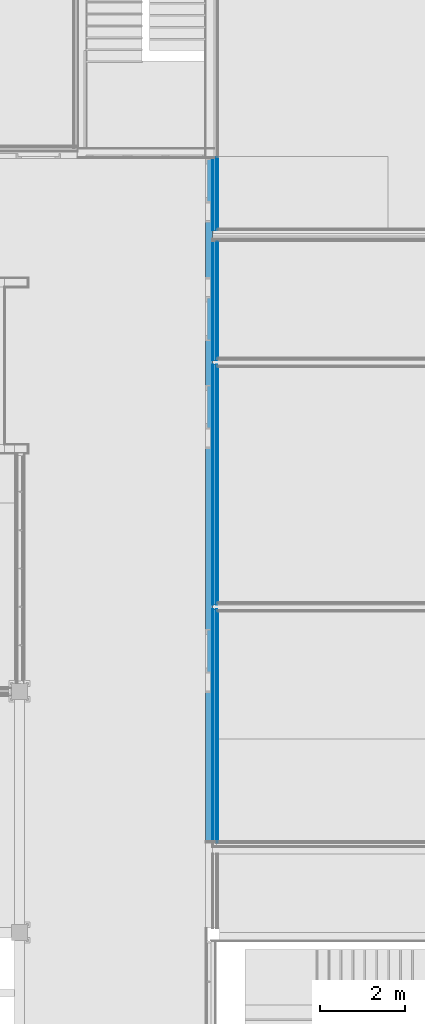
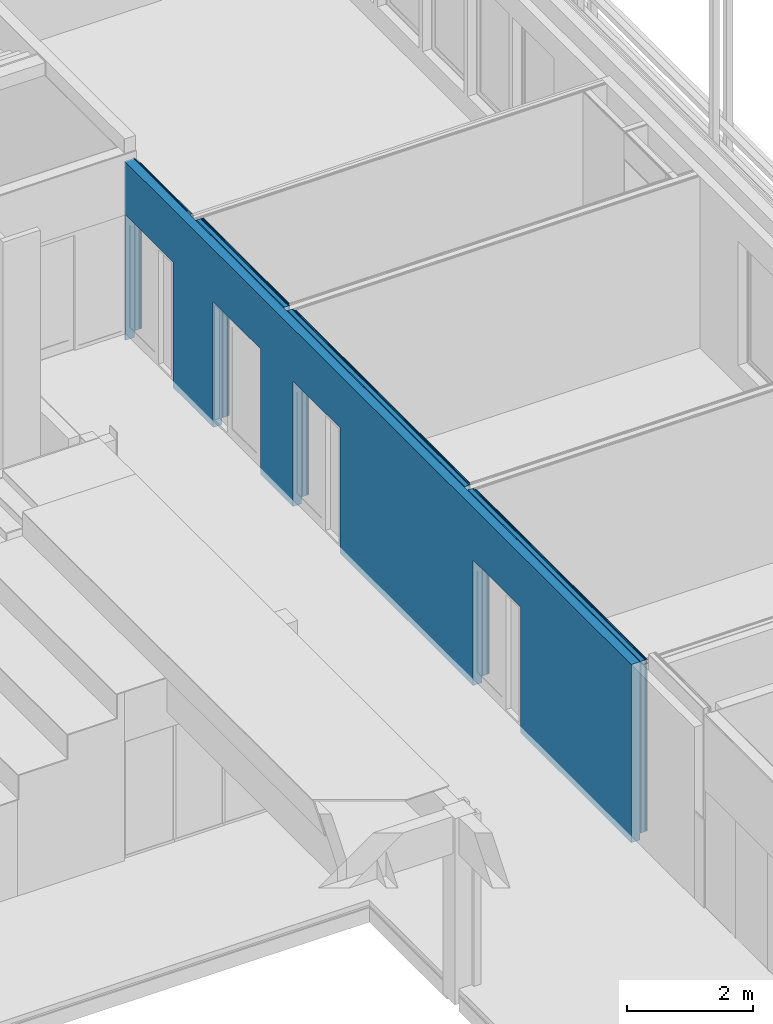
# One storey, part 59 of 139: 7 building element parts, 4 openings, 1 element without a shape of its own.
"""IFC2X3 building model written with IfcOpenShell, lengths in millimetres."""

from ifc_helpers import new_model, entity, si_unit, converted_unit, derived_unit, money_unit, direction, frame, origin_with_axes, place, context, subcontext, project, spatial, faceted_brep, material, type_object, element, aggregate, save


model = new_model("IFC2X3")

# Units and contexts
model_context = context("Model", 3, precision=0.01, world=origin_with_axes(), true_north=direction((0.0, 1.0)))
body_context = subcontext(model_context, "Body", "Model", "MODEL_VIEW")
ifc_project = project(units=[si_unit("LENGTHUNIT", "METRE", prefix="MILLI"), si_unit("AREAUNIT", "SQUARE_METRE"), si_unit("VOLUMEUNIT", "CUBIC_METRE"), converted_unit("PLANEANGLEUNIT", "DEGREE", entity("IfcPlaneAngleMeasure", 0.0174532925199), si_unit("PLANEANGLEUNIT", "RADIAN"), dimensions=[0, 0, 0, 0, 0, 0, 0]), money_unit("EUR"), converted_unit("TIMEUNIT", "Year", entity("IfcTimeMeasure", 31556926.0), si_unit("TIMEUNIT", "SECOND"), dimensions=[0, 0, 1, 0, 0, 0, 0]), si_unit("MASSUNIT", "GRAM", prefix="KILO"), si_unit("THERMODYNAMICTEMPERATUREUNIT", "DEGREE_CELSIUS"), si_unit("LUMINOUSINTENSITYUNIT", "LUMEN"), si_unit("ENERGYUNIT", "JOULE", prefix="MEGA"), derived_unit("THERMALCONDUCTANCEUNIT", [(si_unit("POWERUNIT", "WATT"), 1), (si_unit("LENGTHUNIT", "METRE"), -1), (si_unit("THERMODYNAMICTEMPERATUREUNIT", "KELVIN"), -1)]), derived_unit("SPECIFICHEATCAPACITYUNIT", [(si_unit("ENERGYUNIT", "JOULE"), 1), (si_unit("MASSUNIT", "GRAM", prefix="KILO"), -1), (si_unit("THERMODYNAMICTEMPERATUREUNIT", "KELVIN"), -1)]), derived_unit("MASSDENSITYUNIT", [(si_unit("MASSUNIT", "GRAM", prefix="KILO"), 1), (si_unit("VOLUMEUNIT", "CUBIC_METRE"), -1)])], contexts=[model_context])

# Site, building, storey
site_placement = place(None, origin_with_axes())
site = spatial("IfcSite", under=ifc_project, at=site_placement, Name="Kolde pst 67a", CompositionType="ELEMENT")
building_placement = place(site_placement, origin_with_axes())
building = spatial("IfcBuilding", under=site, at=building_placement, Name="Riigigümnaasium", CompositionType="ELEMENT")
storey_placement = place(building_placement, frame((0.0, 0.0, 4600.0), z_axis=(0.0, 0.0, 1.0), x_axis=(1.0, 0.0, 0.0)))
storey = spatial("IfcBuildingStorey", under=building, at=storey_placement, Name="2. korrus", CompositionType="ELEMENT", Elevation=4600.0)

# Wall, openings, building element parts
wall_type = type_object("IfcWallType", Name="SS-CLT-16/1_vill75+krohv 52 dB 300", PredefinedType="NOTDEFINED")
wall_placement = place(storey_placement, frame((52589.9941222, 52610.0001843, -130.0), z_axis=(0.0, 0.0, 1.0), x_axis=(0.0, -1.0, 0.0)))
wall = element("IfcWall", 1, at=wall_placement, inside=storey, type_object=wall_type, Name="Sisesein")
opening_1_placement = place(wall_placement, frame((780.0, 0.0, 130.0), z_axis=(0.0, 0.0, 1.0), x_axis=(1.0, 0.0, 0.0)))
element("IfcOpeningElement", 2, at=opening_1_placement, cuts=wall, Name="Siseuks", context=body_context, shape_type="Brep", body=[
    faceted_brep([(-750.0, 300.0, 2300.0), (-750.0, 300.0, 0.0), (-750.0, -600.0, 0.0), (-750.0, -600.0, 2300.0), (750.0, 300.0, 2300.0), (750.0, 300.0, 0.0), (750.0, -600.0, 0.0), (750.0, -600.0, 2300.0)], [[[0, 1, 2, 3]], [[0, 4, 5, 1]], [[1, 5, 6, 2]], [[3, 2, 6, 7]], [[4, 0, 3, 7]], [[5, 4, 7, 6]]]),
])
opening_2_placement = place(wall_placement, frame((3560.00030189, 0.0, 130.0), z_axis=(0.0, 0.0, 1.0), x_axis=(1.0, 0.0, 0.0)))
element("IfcOpeningElement", 3, at=opening_2_placement, cuts=wall, Name="Siseuks", context=body_context, shape_type="Brep", body=[
    faceted_brep([(750.0, -600.0, 2300.0), (750.0, -600.0, 0.0), (750.0, 300.0, 0.0), (750.0, 300.0, 2300.0), (-750.0, -600.0, 2300.0), (-750.0, -600.0, 0.0), (-750.0, 300.0, 0.0), (-750.0, 300.0, 2300.0)], [[[0, 1, 2, 3]], [[0, 4, 5, 1]], [[1, 5, 6, 2]], [[3, 2, 6, 7]], [[4, 0, 3, 7]], [[5, 4, 7, 6]]]),
])
opening_3_placement = place(wall_placement, frame((6085.00030189, 0.0, 130.0), z_axis=(0.0, 0.0, 1.0), x_axis=(1.0, 0.0, 0.0)))
element("IfcOpeningElement", 4, at=opening_3_placement, cuts=wall, Name="Siseuks", context=body_context, shape_type="Brep", body=[
    faceted_brep([(-750.0, 300.0, 2300.0), (-750.0, 300.0, 0.0), (-750.0, -600.0, 0.0), (-750.0, -600.0, 2300.0), (750.0, 300.0, 2300.0), (750.0, 300.0, 0.0), (750.0, -600.0, 0.0), (750.0, -600.0, 2300.0)], [[[0, 1, 2, 3]], [[0, 4, 5, 1]], [[1, 5, 6, 2]], [[3, 2, 6, 7]], [[4, 0, 3, 7]], [[5, 4, 7, 6]]]),
])
opening_4_placement = place(wall_placement, frame((11804.7091568, 0.0, 130.0), z_axis=(0.0, 0.0, 1.0), x_axis=(1.0, 0.0, 0.0)))
element("IfcOpeningElement", 5, at=opening_4_placement, cuts=wall, Name="Siseuks", context=body_context, shape_type="Brep", body=[
    faceted_brep([(-750.0, 300.0, 2300.0), (-750.0, 300.0, 0.0), (-750.0, -600.0, 0.0), (-750.0, -600.0, 2300.0), (750.0, 300.0, 2300.0), (750.0, 300.0, 0.0), (750.0, -600.0, 0.0), (750.0, -600.0, 2300.0)], [[[0, 1, 2, 3]], [[0, 4, 5, 1]], [[1, 5, 6, 2]], [[3, 2, 6, 7]], [[4, 0, 3, 7]], [[5, 4, 7, 6]]]),
])
ifc_material_1 = material(Name="_VIIMISTLUSKIHT - viimistlus vastavalt SA osale")
building_element_part_1_placement = place(wall_placement, origin_with_axes())
building_element_part_1 = element("IfcBuildingElementPart", 6, at=building_element_part_1_placement, material=ifc_material_1, Name="_VIIMISTLUSKIHT - viimistlus vastavalt SA osale", context=body_context, shape_type="Brep", body=[
    faceted_brep([(1530.0, 300.0, 130.0), (1530.0, 300.0, 2430.0), (30.0, 300.0, 2430.0), (30.0, 300.0, 130.0), (0.0, 300.0, 130.0), (0.0, 300.0, 3305.0), (1684.99980569, 300.0, 3305.0), (1684.99980569, 300.0, 130.0), (1530.0, 290.0, 130.0), (1530.0, 290.0, 2430.0), (30.0, 290.0, 2430.0), (30.0, 290.0, 130.0), (0.0, 290.0, 130.0), (0.0, 290.0, 3305.0), (1684.99980569, 290.0, 3305.0), (1684.99980569, 290.0, 130.0)], [[[0, 1, 2, 3, 4, 5, 6, 7]], [[1, 0, 8, 9]], [[2, 1, 9, 10]], [[3, 2, 10, 11]], [[3, 11, 12, 4]], [[12, 13, 5, 4]], [[13, 14, 6, 5]], [[7, 6, 14, 15]], [[8, 0, 7, 15]], [[9, 8, 15, 14, 13, 12, 11, 10]]]),
    faceted_brep([(4310.00030189, 300.0, 130.0), (4310.00030189, 300.0, 2430.0), (2810.00030189, 300.0, 2430.0), (2810.00030189, 300.0, 130.0), (1974.99980569, 300.0, 130.0), (1974.99980569, 300.0, 3450.0), (4710.00030189, 300.0, 3450.0), (4710.00030189, 300.0, 130.0), (4310.00030189, 290.0, 130.0), (4310.00030189, 290.0, 2430.0), (2810.00030189, 290.0, 2430.0), (2810.00030189, 290.0, 130.0), (1974.99980569, 290.0, 130.0), (1974.99980569, 290.0, 3450.0), (4710.00030189, 290.0, 3450.0), (4710.00030189, 290.0, 130.0)], [[[0, 1, 2, 3, 4, 5, 6, 7]], [[1, 0, 8, 9]], [[2, 1, 9, 10]], [[3, 2, 10, 11]], [[3, 11, 12, 4]], [[5, 4, 12, 13]], [[5, 13, 14, 6]], [[14, 15, 7, 6]], [[8, 0, 7, 15]], [[9, 8, 15, 14, 13, 12, 11, 10]]]),
    faceted_brep([(6835.00030189, 300.0, 130.0), (6835.00030189, 300.0, 2430.0), (5335.00030189, 300.0, 2430.0), (5335.00030189, 300.0, 130.0), (4920.00030189, 300.0, 130.0), (4920.00030189, 300.0, 3450.0), (10434.7091568, 300.0, 3450.0), (10434.7091568, 300.0, 130.0), (6835.00030189, 290.0, 130.0), (6835.00030189, 290.0, 2430.0), (5335.00030189, 290.0, 2430.0), (5335.00030189, 290.0, 130.0), (4920.00030189, 290.0, 130.0), (4920.00030189, 290.0, 3450.0), (10434.7091568, 290.0, 3450.0), (10434.7091568, 290.0, 130.0)], [[[0, 1, 2, 3, 4, 5, 6, 7]], [[1, 0, 8, 9]], [[2, 1, 9, 10]], [[3, 2, 10, 11]], [[3, 11, 12, 4]], [[5, 4, 12, 13]], [[5, 13, 14, 6]], [[14, 15, 7, 6]], [[8, 0, 7, 15]], [[9, 8, 15, 14, 13, 12, 11, 10]]]),
    faceted_brep([(12554.7091568, 300.0, 130.0), (12554.7091568, 300.0, 2430.0), (11054.7091568, 300.0, 2430.0), (11054.7091568, 300.0, 130.0), (10644.7091568, 300.0, 130.0), (10644.7091568, 300.0, 3450.0), (16070.0004846, 300.0, 3450.0), (16070.0004846, 300.0, 130.0), (12554.7091568, 290.0, 130.0), (12554.7091568, 290.0, 2430.0), (11054.7091568, 290.0, 2430.0), (11054.7091568, 290.0, 130.0), (10644.7091568, 290.0, 130.0), (10644.7091568, 290.0, 3450.0), (16070.0004846, 290.0, 3450.0), (16070.0004846, 290.0, 130.0)], [[[0, 1, 2, 3, 4, 5, 6, 7]], [[1, 0, 8, 9]], [[2, 1, 9, 10]], [[3, 2, 10, 11]], [[3, 11, 12, 4]], [[5, 4, 12, 13]], [[5, 13, 14, 6]], [[14, 15, 7, 6]], [[8, 0, 7, 15]], [[9, 8, 15, 14, 13, 12, 11, 10]]]),
])
ifc_material_2 = material(Name="_PLAATMATERJAL - tuletõkkekipsplaat, Knauf Red GKF või samaväärne")
building_element_part_2_placement = place(wall_placement, origin_with_axes())
building_element_part_2 = element("IfcBuildingElementPart", 7, at=building_element_part_2_placement, material=ifc_material_2, Name="_PLAATMATERJAL - tuletõkkekipsplaat, Knauf Red GKF või samaväärne", context=body_context, shape_type="Brep", body=[
    faceted_brep([(1530.0, 290.0, 130.0), (1530.0, 290.0, 2430.0), (30.0, 290.0, 2430.0), (30.0, 290.0, 130.0), (30.0, 290.0, 127.0), (0.0, 290.0, 127.0), (0.0, 290.0, 3330.0), (1699.99980569, 290.0, 3330.0), (1699.99980569, 290.0, 127.0), (1530.0, 290.0, 127.0), (1530.0, 275.0, 130.0), (1530.0, 275.0, 2430.0), (30.0, 275.0, 2430.0), (30.0, 275.0, 130.0), (30.0, 275.0, 127.0), (0.0, 275.0, 127.0), (0.0, 275.0, 3330.0), (1699.99980569, 275.0, 3330.0), (1699.99980569, 275.0, 127.0), (1530.0, 275.0, 127.0)], [[[0, 1, 2, 3, 4, 5, 6, 7, 8, 9]], [[1, 0, 10, 11]], [[2, 1, 11, 12]], [[3, 2, 12, 13]], [[3, 13, 14, 4]], [[14, 15, 5, 4]], [[15, 16, 6, 5]], [[6, 16, 17, 7]], [[8, 7, 17, 18]], [[9, 8, 18, 19]], [[10, 0, 9, 19]], [[11, 10, 19, 18, 17, 16, 15, 14, 13, 12]]]),
    faceted_brep([(4310.00030189, 290.0, 130.0), (4310.00030189, 290.0, 2430.0), (2810.00030189, 290.0, 2430.0), (2810.00030189, 290.0, 130.0), (2810.00030189, 290.0, 127.0), (1974.99980569, 290.0, 127.0), (1974.99980569, 290.0, 3450.0), (4725.00030189, 290.0, 3450.0), (4725.00030189, 290.0, 127.0), (4310.00030189, 290.0, 127.0), (4310.00030189, 275.0, 130.0), (4310.00030189, 275.0, 2430.0), (2810.00030189, 275.0, 2430.0), (2810.00030189, 275.0, 130.0), (2810.00030189, 275.0, 127.0), (1974.99980569, 275.0, 127.0), (1974.99980569, 275.0, 3450.0), (4725.00030189, 275.0, 3450.0), (4725.00030189, 275.0, 127.0), (4310.00030189, 275.0, 127.0)], [[[0, 1, 2, 3, 4, 5, 6, 7, 8, 9]], [[1, 0, 10, 11]], [[2, 1, 11, 12]], [[3, 2, 12, 13]], [[3, 13, 14, 4]], [[14, 15, 5, 4]], [[6, 5, 15, 16]], [[6, 16, 17, 7]], [[17, 18, 8, 7]], [[9, 8, 18, 19]], [[10, 0, 9, 19]], [[11, 10, 19, 18, 17, 16, 15, 14, 13, 12]]]),
    faceted_brep([(6835.00030189, 290.0, 130.0), (6835.00030189, 290.0, 2430.0), (5335.00030189, 290.0, 2430.0), (5335.00030189, 290.0, 130.0), (5335.00030189, 290.0, 127.0), (4905.00030189, 290.0, 127.0), (4905.00030189, 290.0, 3450.0), (10449.7091568, 290.0, 3450.0), (10449.7091568, 290.0, 127.0), (6835.00030189, 290.0, 127.0), (6835.00030189, 275.0, 130.0), (6835.00030189, 275.0, 2430.0), (5335.00030189, 275.0, 2430.0), (5335.00030189, 275.0, 130.0), (5335.00030189, 275.0, 127.0), (4905.00030189, 275.0, 127.0), (4905.00030189, 275.0, 3450.0), (10449.7091568, 275.0, 3450.0), (10449.7091568, 275.0, 127.0), (6835.00030189, 275.0, 127.0)], [[[0, 1, 2, 3, 4, 5, 6, 7, 8, 9]], [[1, 0, 10, 11]], [[2, 1, 11, 12]], [[3, 2, 12, 13]], [[3, 13, 14, 4]], [[14, 15, 5, 4]], [[6, 5, 15, 16]], [[6, 16, 17, 7]], [[17, 18, 8, 7]], [[9, 8, 18, 19]], [[10, 0, 9, 19]], [[11, 10, 19, 18, 17, 16, 15, 14, 13, 12]]]),
    faceted_brep([(12554.7091568, 290.0, 130.0), (12554.7091568, 290.0, 2430.0), (11054.7091568, 290.0, 2430.0), (11054.7091568, 290.0, 130.0), (11054.7091568, 290.0, 127.0), (10629.7091568, 290.0, 127.0), (10629.7091568, 290.0, 3450.0), (16070.0004846, 290.0, 3450.0), (16070.0004846, 290.0, 127.0), (12554.7091568, 290.0, 127.0), (12554.7091568, 275.0, 130.0), (12554.7091568, 275.0, 2430.0), (11054.7091568, 275.0, 2430.0), (11054.7091568, 275.0, 130.0), (11054.7091568, 275.0, 127.0), (10629.7091568, 275.0, 127.0), (10629.7091568, 275.0, 3450.0), (16070.0004846, 275.0, 3450.0), (16070.0004846, 275.0, 127.0), (12554.7091568, 275.0, 127.0)], [[[0, 1, 2, 3, 4, 5, 6, 7, 8, 9]], [[1, 0, 10, 11]], [[2, 1, 11, 12]], [[3, 2, 12, 13]], [[3, 13, 14, 4]], [[14, 15, 5, 4]], [[6, 5, 15, 16]], [[6, 16, 17, 7]], [[17, 18, 8, 7]], [[9, 8, 18, 19]], [[10, 0, 9, 19]], [[11, 10, 19, 18, 17, 16, 15, 14, 13, 12]]]),
])
building_element_part_3_placement = place(wall_placement, origin_with_axes())
building_element_part_3 = element("IfcBuildingElementPart", 8, at=building_element_part_3_placement, material=ifc_material_2, Name="_PLAATMATERJAL - tuletõkkekipsplaat, Knauf Red GKF või samaväärne", context=body_context, shape_type="Brep", body=[
    faceted_brep([(1530.0, 275.0, 130.0), (1530.0, 275.0, 2430.0), (30.0, 275.0, 2430.0), (30.0, 275.0, 130.0), (30.0, 275.0, 127.0), (0.0, 275.0, 127.0), (0.0, 275.0, 3330.0), (1714.99980569, 275.0, 3330.0), (1714.99980569, 275.0, 127.0), (1530.0, 275.0, 127.0), (1530.0, 260.0, 130.0), (1530.0, 260.0, 2430.0), (30.0, 260.0, 2430.0), (30.0, 260.0, 130.0), (30.0, 260.0, 127.0), (0.0, 260.0, 127.0), (0.0, 260.0, 3330.0), (1714.99980569, 260.0, 3330.0), (1714.99980569, 260.0, 127.0), (1530.0, 260.0, 127.0)], [[[0, 1, 2, 3, 4, 5, 6, 7, 8, 9]], [[1, 0, 10, 11]], [[2, 1, 11, 12]], [[3, 2, 12, 13]], [[3, 13, 14, 4]], [[14, 15, 5, 4]], [[15, 16, 6, 5]], [[6, 16, 17, 7]], [[8, 7, 17, 18]], [[9, 8, 18, 19]], [[10, 0, 9, 19]], [[11, 10, 19, 18, 17, 16, 15, 14, 13, 12]]]),
    faceted_brep([(4310.00030189, 275.0, 130.0), (4310.00030189, 275.0, 2430.0), (2810.00030189, 275.0, 2430.0), (2810.00030189, 275.0, 130.0), (2810.00030189, 275.0, 127.0), (1974.99980569, 275.0, 127.0), (1974.99980569, 275.0, 3450.0), (4765.00030189, 275.0, 3450.0), (4765.00030189, 275.0, 127.0), (4310.00030189, 275.0, 127.0), (4310.00030189, 260.0, 130.0), (4310.00030189, 260.0, 2430.0), (2810.00030189, 260.0, 2430.0), (2810.00030189, 260.0, 130.0), (2810.00030189, 260.0, 127.0), (1974.99980569, 260.0, 127.0), (1974.99980569, 260.0, 3450.0), (4765.00030189, 260.0, 3450.0), (4765.00030189, 260.0, 127.0), (4310.00030189, 260.0, 127.0)], [[[0, 1, 2, 3, 4, 5, 6, 7, 8, 9]], [[1, 0, 10, 11]], [[2, 1, 11, 12]], [[3, 2, 12, 13]], [[3, 13, 14, 4]], [[14, 15, 5, 4]], [[6, 5, 15, 16]], [[6, 16, 17, 7]], [[17, 18, 8, 7]], [[9, 8, 18, 19]], [[10, 0, 9, 19]], [[11, 10, 19, 18, 17, 16, 15, 14, 13, 12]]]),
    faceted_brep([(6835.00030189, 275.0, 130.0), (6835.00030189, 275.0, 2430.0), (5335.00030189, 275.0, 2430.0), (5335.00030189, 275.0, 130.0), (5335.00030189, 275.0, 127.0), (4865.00030189, 275.0, 127.0), (4865.00030189, 275.0, 3450.0), (10489.7091568, 275.0, 3450.0), (10489.7091568, 275.0, 127.0), (6835.00030189, 275.0, 127.0), (6835.00030189, 260.0, 130.0), (6835.00030189, 260.0, 2430.0), (5335.00030189, 260.0, 2430.0), (5335.00030189, 260.0, 130.0), (5335.00030189, 260.0, 127.0), (4865.00030189, 260.0, 127.0), (4865.00030189, 260.0, 3450.0), (10489.7091568, 260.0, 3450.0), (10489.7091568, 260.0, 127.0), (6835.00030189, 260.0, 127.0)], [[[0, 1, 2, 3, 4, 5, 6, 7, 8, 9]], [[1, 0, 10, 11]], [[2, 1, 11, 12]], [[3, 2, 12, 13]], [[3, 13, 14, 4]], [[14, 15, 5, 4]], [[6, 5, 15, 16]], [[6, 16, 17, 7]], [[17, 18, 8, 7]], [[9, 8, 18, 19]], [[10, 0, 9, 19]], [[11, 10, 19, 18, 17, 16, 15, 14, 13, 12]]]),
    faceted_brep([(12554.7091568, 275.0, 130.0), (12554.7091568, 275.0, 2430.0), (11054.7091568, 275.0, 2430.0), (11054.7091568, 275.0, 130.0), (11054.7091568, 275.0, 127.0), (10589.7091568, 275.0, 127.0), (10589.7091568, 275.0, 3450.0), (16070.0004846, 275.0, 3450.0), (16070.0004846, 275.0, 127.0), (12554.7091568, 275.0, 127.0), (12554.7091568, 260.0, 130.0), (12554.7091568, 260.0, 2430.0), (11054.7091568, 260.0, 2430.0), (11054.7091568, 260.0, 130.0), (11054.7091568, 260.0, 127.0), (10589.7091568, 260.0, 127.0), (10589.7091568, 260.0, 3450.0), (16070.0004846, 260.0, 3450.0), (16070.0004846, 260.0, 127.0), (12554.7091568, 260.0, 127.0)], [[[0, 1, 2, 3, 4, 5, 6, 7, 8, 9]], [[1, 0, 10, 11]], [[2, 1, 11, 12]], [[3, 2, 12, 13]], [[3, 13, 14, 4]], [[14, 15, 5, 4]], [[6, 5, 15, 16]], [[6, 16, 17, 7]], [[17, 18, 8, 7]], [[9, 8, 18, 19]], [[10, 0, 9, 19]], [[11, 10, 19, 18, 17, 16, 15, 14, 13, 12]]]),
])
ifc_material_3 = material(Name="_PLAATMATERJAL - OSB3 plaat")
building_element_part_4_placement = place(wall_placement, origin_with_axes())
building_element_part_4 = element("IfcBuildingElementPart", 9, at=building_element_part_4_placement, material=ifc_material_3, Name="_PLAATMATERJAL - OSB3 plaat", context=body_context, shape_type="Brep", body=[
    faceted_brep([(1530.0, 260.0, 130.0), (1530.0, 260.0, 2430.0), (30.0, 260.0, 2430.0), (30.0, 260.0, 130.0), (30.0, 260.0, 127.0), (0.0, 260.0, 127.0), (0.0, 260.0, 3330.0), (1714.99980569, 260.0, 3330.0), (1714.99980569, 260.0, 127.0), (1530.0, 260.0, 127.0), (1530.0, 250.0, 130.0), (1530.0, 250.0, 2430.0), (30.0, 250.0, 2430.0), (30.0, 250.0, 130.0), (30.0, 250.0, 127.0), (0.0, 250.0, 127.0), (0.0, 250.0, 3330.0), (1714.99980569, 250.0, 3330.0), (1714.99980569, 250.0, 127.0), (1530.0, 250.0, 127.0)], [[[0, 1, 2, 3, 4, 5, 6, 7, 8, 9]], [[1, 0, 10, 11]], [[2, 1, 11, 12]], [[3, 2, 12, 13]], [[3, 13, 14, 4]], [[14, 15, 5, 4]], [[15, 16, 6, 5]], [[6, 16, 17, 7]], [[8, 7, 17, 18]], [[9, 8, 18, 19]], [[10, 0, 9, 19]], [[11, 10, 19, 18, 17, 16, 15, 14, 13, 12]]]),
    faceted_brep([(4310.00030189, 260.0, 130.0), (4310.00030189, 260.0, 2430.0), (2810.00030189, 260.0, 2430.0), (2810.00030189, 260.0, 130.0), (2810.00030189, 260.0, 127.0), (1974.99980569, 260.0, 127.0), (1974.99980569, 260.0, 3450.0), (4765.00030189, 260.0, 3450.0), (4765.00030189, 260.0, 127.0), (4310.00030189, 260.0, 127.0), (4310.00030189, 250.0, 130.0), (4310.00030189, 250.0, 2430.0), (2810.00030189, 250.0, 2430.0), (2810.00030189, 250.0, 130.0), (2810.00030189, 250.0, 127.0), (1974.99980569, 250.0, 127.0), (1974.99980569, 250.0, 3450.0), (4765.00030189, 250.0, 3450.0), (4765.00030189, 250.0, 127.0), (4310.00030189, 250.0, 127.0)], [[[0, 1, 2, 3, 4, 5, 6, 7, 8, 9]], [[1, 0, 10, 11]], [[2, 1, 11, 12]], [[3, 2, 12, 13]], [[3, 13, 14, 4]], [[14, 15, 5, 4]], [[6, 5, 15, 16]], [[6, 16, 17, 7]], [[17, 18, 8, 7]], [[9, 8, 18, 19]], [[10, 0, 9, 19]], [[11, 10, 19, 18, 17, 16, 15, 14, 13, 12]]]),
    faceted_brep([(6835.00030189, 260.0, 130.0), (6835.00030189, 260.0, 2430.0), (5335.00030189, 260.0, 2430.0), (5335.00030189, 260.0, 130.0), (5335.00030189, 260.0, 127.0), (4865.00030189, 260.0, 127.0), (4865.00030189, 260.0, 3450.0), (10489.7091568, 260.0, 3450.0), (10489.7091568, 260.0, 127.0), (6835.00030189, 260.0, 127.0), (6835.00030189, 250.0, 130.0), (6835.00030189, 250.0, 2430.0), (5335.00030189, 250.0, 2430.0), (5335.00030189, 250.0, 130.0), (5335.00030189, 250.0, 127.0), (4865.00030189, 250.0, 127.0), (4865.00030189, 250.0, 3450.0), (10489.7091568, 250.0, 3450.0), (10489.7091568, 250.0, 127.0), (6835.00030189, 250.0, 127.0)], [[[0, 1, 2, 3, 4, 5, 6, 7, 8, 9]], [[1, 0, 10, 11]], [[2, 1, 11, 12]], [[3, 2, 12, 13]], [[3, 13, 14, 4]], [[14, 15, 5, 4]], [[6, 5, 15, 16]], [[6, 16, 17, 7]], [[17, 18, 8, 7]], [[9, 8, 18, 19]], [[10, 0, 9, 19]], [[11, 10, 19, 18, 17, 16, 15, 14, 13, 12]]]),
    faceted_brep([(12554.7091568, 260.0, 130.0), (12554.7091568, 260.0, 2430.0), (11054.7091568, 260.0, 2430.0), (11054.7091568, 260.0, 130.0), (11054.7091568, 260.0, 127.0), (10589.7091568, 260.0, 127.0), (10589.7091568, 260.0, 3450.0), (16070.0004846, 260.0, 3450.0), (16070.0004846, 260.0, 127.0), (12554.7091568, 260.0, 127.0), (12554.7091568, 250.0, 130.0), (12554.7091568, 250.0, 2430.0), (11054.7091568, 250.0, 2430.0), (11054.7091568, 250.0, 130.0), (11054.7091568, 250.0, 127.0), (10589.7091568, 250.0, 127.0), (10589.7091568, 250.0, 3450.0), (16070.0004846, 250.0, 3450.0), (16070.0004846, 250.0, 127.0), (12554.7091568, 250.0, 127.0)], [[[0, 1, 2, 3, 4, 5, 6, 7, 8, 9]], [[1, 0, 10, 11]], [[2, 1, 11, 12]], [[3, 2, 12, 13]], [[3, 13, 14, 4]], [[14, 15, 5, 4]], [[6, 5, 15, 16]], [[6, 16, 17, 7]], [[17, 18, 8, 7]], [[9, 8, 18, 19]], [[10, 0, 9, 19]], [[11, 10, 19, 18, 17, 16, 15, 14, 13, 12]]]),
])
ifc_material_4 = material(Name="_KARKASS - metallkarkass CW 75/50/06 ja UW 75/40/06, samm 600, vahel mineraalvill, helineeldetegur αw = 1.0,  ISOVER ACOUSTIC 75mm või samaväärne")
building_element_part_5_placement = place(wall_placement, origin_with_axes())
building_element_part_5 = element("IfcBuildingElementPart", 10, at=building_element_part_5_placement, material=ifc_material_4, Name="_KARKASS - metallkarkass CW 75/50/06 ja UW 75/40/06, samm 600, vahel mineraalvill, helineeldetegur αw = 1.0,  ISOVER ACOUSTIC 75mm või samaväärne", context=body_context, shape_type="Brep", body=[
    faceted_brep([(1530.0, 250.0, 130.0), (1530.0, 250.0, 2430.0), (30.0, 250.0, 2430.0), (30.0, 250.0, 130.0), (30.0, 250.0, 127.0), (0.0, 250.0, 127.0), (0.0, 250.0, 3330.0), (1714.99980569, 250.0, 3330.0), (1714.99980569, 250.0, 127.0), (1530.0, 250.0, 127.0), (1530.0, 175.0, 130.0), (1530.0, 175.0, 2430.0), (30.0, 175.0, 2430.0), (30.0, 175.0, 130.0), (30.0, 175.0, 127.0), (0.0, 175.0, 127.0), (0.0, 175.0, 3330.0), (1714.99980569, 175.0, 3330.0), (1714.99980569, 175.0, 127.0), (1530.0, 175.0, 127.0)], [[[0, 1, 2, 3, 4, 5, 6, 7, 8, 9]], [[1, 0, 10, 11]], [[2, 1, 11, 12]], [[3, 2, 12, 13]], [[3, 13, 14, 4]], [[14, 15, 5, 4]], [[15, 16, 6, 5]], [[6, 16, 17, 7]], [[8, 7, 17, 18]], [[9, 8, 18, 19]], [[10, 0, 9, 19]], [[11, 10, 19, 18, 17, 16, 15, 14, 13, 12]]]),
    faceted_brep([(4310.00030189, 250.0, 130.0), (4310.00030189, 250.0, 2430.0), (2810.00030189, 250.0, 2430.0), (2810.00030189, 250.0, 130.0), (2810.00030189, 250.0, 127.0), (1974.99980569, 250.0, 127.0), (1974.99980569, 250.0, 3450.0), (4765.00030189, 250.0, 3450.0), (4765.00030189, 250.0, 127.0), (4310.00030189, 250.0, 127.0), (4310.00030189, 175.0, 130.0), (4310.00030189, 175.0, 2430.0), (2810.00030189, 175.0, 2430.0), (2810.00030189, 175.0, 130.0), (2810.00030189, 175.0, 127.0), (1974.99980569, 175.0, 127.0), (1974.99980569, 175.0, 3450.0), (4765.00030189, 175.0, 3450.0), (4765.00030189, 175.0, 127.0), (4310.00030189, 175.0, 127.0)], [[[0, 1, 2, 3, 4, 5, 6, 7, 8, 9]], [[1, 0, 10, 11]], [[2, 1, 11, 12]], [[3, 2, 12, 13]], [[3, 13, 14, 4]], [[14, 15, 5, 4]], [[6, 5, 15, 16]], [[6, 16, 17, 7]], [[17, 18, 8, 7]], [[9, 8, 18, 19]], [[10, 0, 9, 19]], [[11, 10, 19, 18, 17, 16, 15, 14, 13, 12]]]),
    faceted_brep([(6835.00030189, 250.0, 130.0), (6835.00030189, 250.0, 2430.0), (5335.00030189, 250.0, 2430.0), (5335.00030189, 250.0, 130.0), (5335.00030189, 250.0, 127.0), (4865.00030189, 250.0, 127.0), (4865.00030189, 250.0, 3450.0), (10489.7091568, 250.0, 3450.0), (10489.7091568, 250.0, 127.0), (6835.00030189, 250.0, 127.0), (6835.00030189, 175.0, 130.0), (6835.00030189, 175.0, 2430.0), (5335.00030189, 175.0, 2430.0), (5335.00030189, 175.0, 130.0), (5335.00030189, 175.0, 127.0), (4865.00030189, 175.0, 127.0), (4865.00030189, 175.0, 3450.0), (10489.7091568, 175.0, 3450.0), (10489.7091568, 175.0, 127.0), (6835.00030189, 175.0, 127.0)], [[[0, 1, 2, 3, 4, 5, 6, 7, 8, 9]], [[1, 0, 10, 11]], [[2, 1, 11, 12]], [[3, 2, 12, 13]], [[3, 13, 14, 4]], [[14, 15, 5, 4]], [[6, 5, 15, 16]], [[6, 16, 17, 7]], [[17, 18, 8, 7]], [[9, 8, 18, 19]], [[10, 0, 9, 19]], [[11, 10, 19, 18, 17, 16, 15, 14, 13, 12]]]),
    faceted_brep([(12554.7091568, 250.0, 130.0), (12554.7091568, 250.0, 2430.0), (11054.7091568, 250.0, 2430.0), (11054.7091568, 250.0, 130.0), (11054.7091568, 250.0, 127.0), (10589.7091568, 250.0, 127.0), (10589.7091568, 250.0, 3450.0), (16070.0004846, 250.0, 3450.0), (16070.0004846, 250.0, 127.0), (12554.7091568, 250.0, 127.0), (12554.7091568, 175.0, 130.0), (12554.7091568, 175.0, 2430.0), (11054.7091568, 175.0, 2430.0), (11054.7091568, 175.0, 130.0), (11054.7091568, 175.0, 127.0), (10589.7091568, 175.0, 127.0), (10589.7091568, 175.0, 3450.0), (16070.0004846, 175.0, 3450.0), (16070.0004846, 175.0, 127.0), (12554.7091568, 175.0, 127.0)], [[[0, 1, 2, 3, 4, 5, 6, 7, 8, 9]], [[1, 0, 10, 11]], [[2, 1, 11, 12]], [[3, 2, 12, 13]], [[3, 13, 14, 4]], [[14, 15, 5, 4]], [[6, 5, 15, 16]], [[6, 16, 17, 7]], [[17, 18, 8, 7]], [[9, 8, 18, 19]], [[10, 0, 9, 19]], [[11, 10, 19, 18, 17, 16, 15, 14, 13, 12]]]),
])
ifc_material_5 = material(Name="_ÕHKVAHE")
building_element_part_6_placement = place(wall_placement, origin_with_axes())
building_element_part_6 = element("IfcBuildingElementPart", 11, at=building_element_part_6_placement, material=ifc_material_5, Name="_ÕHKVAHE", context=body_context, shape_type="Brep", body=[
    faceted_brep([(1530.0, 175.0, 130.0), (1530.0, 175.0, 2430.0), (30.0, 175.0, 2430.0), (30.0, 175.0, 130.0), (30.0, 175.0, 127.0), (0.0, 175.0, 127.0), (0.0, 175.0, 3380.0), (1714.99980569, 175.0, 3380.0), (1714.99980569, 175.0, 127.0), (1530.0, 175.0, 127.0), (1530.0, 160.0, 130.0), (1530.0, 160.0, 2430.0), (30.0, 160.0, 2430.0), (30.0, 160.0, 130.0), (30.0, 160.0, 127.0), (0.0, 160.0, 127.0), (0.0, 169.999902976, 3470.0), (0.0, 169.999902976, 3380.0), (0.0, 160.0, 3470.0), (1714.99980569, 169.999902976, 3380.0), (1714.99980569, 169.999902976, 3470.0), (1714.99980569, 160.0, 3470.0), (1714.99980569, 160.0, 127.0), (1530.0, 160.0, 127.0)], [[[0, 1, 2, 3, 4, 5, 6, 7, 8, 9]], [[1, 0, 10, 11]], [[2, 1, 11, 12]], [[3, 2, 12, 13]], [[3, 13, 14, 4]], [[14, 15, 5, 4]], [[16, 17, 6, 5, 15, 18]], [[6, 17, 19, 7]], [[19, 20, 21, 22, 8, 7]], [[9, 8, 22, 23]], [[10, 0, 9, 23]], [[11, 10, 23, 22, 21, 18, 15, 14, 13, 12]], [[16, 20, 19, 17]], [[16, 18, 21, 20]]]),
    faceted_brep([(4310.00030189, 175.0, 130.0), (4310.00030189, 175.0, 2430.0), (2810.00030189, 175.0, 2430.0), (2810.00030189, 175.0, 130.0), (2810.00030189, 175.0, 127.0), (1974.99980569, 175.0, 127.0), (1974.99980569, 175.0, 3450.0), (4765.00030189, 175.0, 3450.0), (4765.00030189, 175.0, 127.0), (4310.00030189, 175.0, 127.0), (4310.00030189, 160.0, 130.0), (4310.00030189, 160.0, 2430.0), (2810.00030189, 160.0, 2430.0), (2810.00030189, 160.0, 130.0), (2810.00030189, 160.0, 127.0), (1974.99980569, 160.0, 127.0), (1974.99980569, 160.0, 3450.0), (4765.00030189, 160.0, 3450.0), (4765.00030189, 160.0, 127.0), (4310.00030189, 160.0, 127.0)], [[[0, 1, 2, 3, 4, 5, 6, 7, 8, 9]], [[1, 0, 10, 11]], [[2, 1, 11, 12]], [[3, 2, 12, 13]], [[3, 13, 14, 4]], [[14, 15, 5, 4]], [[6, 5, 15, 16]], [[6, 16, 17, 7]], [[17, 18, 8, 7]], [[9, 8, 18, 19]], [[10, 0, 9, 19]], [[11, 10, 19, 18, 17, 16, 15, 14, 13, 12]]]),
    faceted_brep([(6835.00030189, 175.0, 130.0), (6835.00030189, 175.0, 2430.0), (5335.00030189, 175.0, 2430.0), (5335.00030189, 175.0, 130.0), (5335.00030189, 175.0, 127.0), (4865.00030189, 175.0, 127.0), (4865.00030189, 175.0, 3450.0), (10489.7091568, 175.0, 3450.0), (10489.7091568, 175.0, 127.0), (6835.00030189, 175.0, 127.0), (6835.00030189, 160.0, 130.0), (6835.00030189, 160.0, 2430.0), (5335.00030189, 160.0, 2430.0), (5335.00030189, 160.0, 130.0), (5335.00030189, 160.0, 127.0), (4865.00030189, 160.0, 127.0), (4865.00030189, 160.0, 3450.0), (10489.7091568, 160.0, 3450.0), (10489.7091568, 160.0, 127.0), (6835.00030189, 160.0, 127.0)], [[[0, 1, 2, 3, 4, 5, 6, 7, 8, 9]], [[1, 0, 10, 11]], [[2, 1, 11, 12]], [[3, 2, 12, 13]], [[3, 13, 14, 4]], [[14, 15, 5, 4]], [[6, 5, 15, 16]], [[6, 16, 17, 7]], [[17, 18, 8, 7]], [[9, 8, 18, 19]], [[10, 0, 9, 19]], [[11, 10, 19, 18, 17, 16, 15, 14, 13, 12]]]),
    faceted_brep([(12554.7091568, 175.0, 130.0), (12554.7091568, 175.0, 2430.0), (11054.7091568, 175.0, 2430.0), (11054.7091568, 175.0, 130.0), (11054.7091568, 175.0, 127.0), (10589.7091568, 175.0, 127.0), (10589.7091568, 175.0, 3450.0), (16070.0004846, 175.0, 3450.0), (16070.0004846, 175.0, 127.0), (12554.7091568, 175.0, 127.0), (12554.7091568, 160.0, 130.0), (12554.7091568, 160.0, 2430.0), (11054.7091568, 160.0, 2430.0), (11054.7091568, 160.0, 130.0), (11054.7091568, 160.0, 127.0), (10589.7091568, 160.0, 127.0), (10589.7091568, 160.0, 3450.0), (16070.0004846, 160.0, 3450.0), (16070.0004846, 160.0, 127.0), (12554.7091568, 160.0, 127.0)], [[[0, 1, 2, 3, 4, 5, 6, 7, 8, 9]], [[1, 0, 10, 11]], [[2, 1, 11, 12]], [[3, 2, 12, 13]], [[3, 13, 14, 4]], [[14, 15, 5, 4]], [[6, 5, 15, 16]], [[6, 16, 17, 7]], [[17, 18, 8, 7]], [[9, 8, 18, 19]], [[10, 0, 9, 19]], [[11, 10, 19, 18, 17, 16, 15, 14, 13, 12]]]),
])
ifc_material_6 = material(Name="_KANDETARIND - CLT ristkihtliimpuit vastavalt EK osale, CLT paigaldusvuugid teibitakse ROTHOBLAAS teibiga")
building_element_part_7_placement = place(wall_placement, origin_with_axes())
building_element_part_7 = element("IfcBuildingElementPart", 12, at=building_element_part_7_placement, material=ifc_material_6, Name="_KANDETARIND - CLT ristkihtliimpuit vastavalt EK osale, CLT paigaldusvuugid teibitakse ROTHOBLAAS teibiga", context=body_context, shape_type="Brep", body=[
    faceted_brep([(12554.7091568, 160.0, 130.0), (12554.7091568, 160.0, 2430.0), (11054.7091568, 160.0, 2430.0), (11054.7091568, 160.0, 130.0), (11054.7091568, 160.0, 0.0), (6835.00030189, 160.0, 0.0), (6835.00030189, 160.0, 130.0), (6835.00030189, 160.0, 2430.0), (5335.00030189, 160.0, 2430.0), (5335.00030189, 160.0, 130.0), (5335.00030189, 160.0, 0.0), (4310.00030189, 160.0, 0.0), (4310.00030189, 160.0, 130.0), (4310.00030189, 160.0, 2430.0), (2810.00030189, 160.0, 2430.0), (2810.00030189, 160.0, 130.0), (2810.00030189, 160.0, 0.0), (1530.0, 160.0, 0.0), (1530.0, 160.0, 130.0), (1530.0, 160.0, 2430.0), (30.0, 160.0, 2430.0), (30.0, 160.0, 130.0), (30.0, 160.0, 0.0), (0.0, 160.0, 0.0), (0.0, 159.999902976, 3450.0), (1794.99980569, 159.999902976, 3450.0), (16070.0004846, 160.0, 3450.0), (16070.0004846, 160.0, 0.0), (12554.7091568, 160.0, 0.0), (12554.7091568, 0.0, 130.0), (12554.7091568, 0.0, 2430.0), (11054.7091568, 0.0, 2430.0), (11054.7091568, 0.0, 130.0), (11054.7091568, 0.0, 0.0), (6835.00030189, 0.0, 0.0), (6835.00030189, 0.0, 130.0), (6835.00030189, 0.0, 2430.0), (5335.00030189, 0.0, 2430.0), (5335.00030189, 0.0, 130.0), (5335.00030189, 0.0, 0.0), (4310.00030189, 0.0, 0.0), (4310.00030189, 0.0, 130.0), (4310.00030189, 0.0, 2430.0), (2810.00030189, 0.0, 2430.0), (2810.00030189, 0.0, 130.0), (2810.00030189, 0.0, 0.0), (1530.0, 0.0, 0.0), (1530.0, 0.0, 130.0), (1530.0, 0.0, 2430.0), (30.0, 0.0, 2430.0), (30.0, 0.0, 130.0), (30.0, 0.0, 0.0), (0.0, 0.0, 0.0), (0.0, 0.0, 3450.0), (16070.0004846, 0.0, 3450.0), (16070.0004846, 0.0, 0.0), (12554.7091568, 0.0, 0.0)], [[[0, 1, 2, 3, 4, 5, 6, 7, 8, 9, 10, 11, 12, 13, 14, 15, 16, 17, 18, 19, 20, 21, 22, 23, 24, 25, 26, 27, 28]], [[1, 0, 29, 30]], [[2, 1, 30, 31]], [[3, 2, 31, 32]], [[3, 32, 33, 4]], [[4, 33, 34, 5]], [[6, 5, 34, 35]], [[6, 35, 36, 7]], [[7, 36, 37, 8]], [[8, 37, 38, 9]], [[38, 39, 10, 9]], [[10, 39, 40, 11]], [[11, 40, 41, 12]], [[41, 42, 13, 12]], [[42, 43, 14, 13]], [[43, 44, 15, 14]], [[45, 16, 15, 44]], [[16, 45, 46, 17]], [[46, 47, 18, 17]], [[48, 19, 18, 47]], [[49, 20, 19, 48]], [[50, 21, 20, 49]], [[22, 21, 50, 51]], [[22, 51, 52, 23]], [[53, 24, 23, 52]], [[25, 24, 53, 54, 26]], [[26, 54, 55, 27]], [[56, 28, 27, 55]], [[29, 0, 28, 56]], [[30, 29, 56, 55, 54, 53, 52, 51, 50, 49, 48, 47, 46, 45, 44, 43, 42, 41, 40, 39, 38, 37, 36, 35, 34, 33, 32, 31]]]),
])
aggregate(wall, [building_element_part_1, building_element_part_2, building_element_part_3, building_element_part_4, building_element_part_5, building_element_part_6, building_element_part_7])

save(model, "model.ifc")
